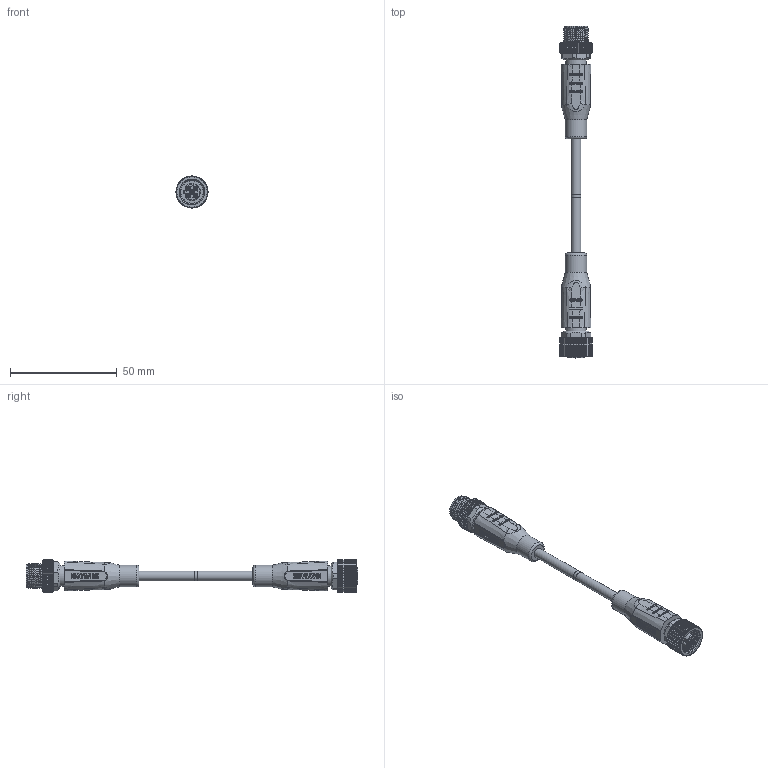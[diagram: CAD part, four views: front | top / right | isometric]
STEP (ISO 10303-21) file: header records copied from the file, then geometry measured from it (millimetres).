
FILE_DESCRIPTION(/* description */ (''),/* implementation_level */ '2;1');
FILE_NAME(/* name */ 'M12D-4MS丿M12D-4FS.P-L_stp.stp',/* time_stamp */ '2024-04-19T09:04:11+08:00',/* author */ (''),/* organization */ (''),/* preprocessor_version */ 'ST-DEVELOPER v16.7',/* originating_system */ 'SIEMENS PLM Software NX 12.0',/* authorisation */ '');
FILE_SCHEMA (('AP203_CONFIGURATION_CONTROLLED_3D_DESIGN_OF_MECHANICAL_PARTS_AND_ASSEMBLIES_MIM_LF { 1 0 10303 403 2 1 2}'));
Length unit declared in the file: millimetre
Products named in the file (1): Admi30D4597D606e
Bounding box: 15 x 155.25 x 15 mm (x, y, z)
Volume: 13063.1 mm3; surface area: 8910.3 mm2
Topology: 2 solids, 21 shells, 1147 faces, 3209 edges, 2123 vertices
Faces by surface type: plane 453, cylinder 378, cone 225, extrusion 44, bspline 32, sphere 8, torus 7
Full cylindrical faces by diameter (mm): 1.2 x5, 2.1 x22, 4.5 x2, 8.3 x1, 9.4 x1, 9.8 x1, 10 x3, 10.8 x2, 12 x9
Entity records: 42728 total; most frequent: CARTESIAN_POINT 14149, ORIENTED_EDGE 6178, DIRECTION 5606, EDGE_CURVE 3089, VERTEX_POINT 2080, AXIS2_PLACEMENT_3D 2078, VECTOR 1450, LINE 1406
